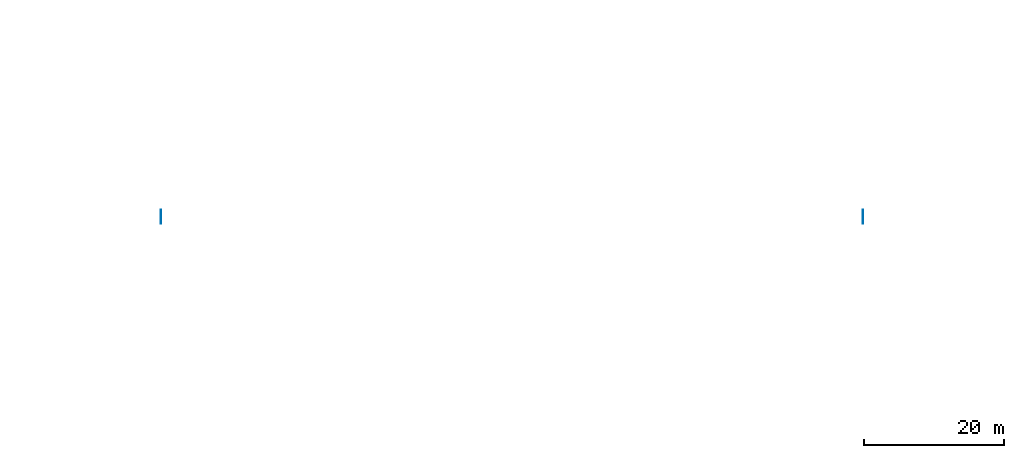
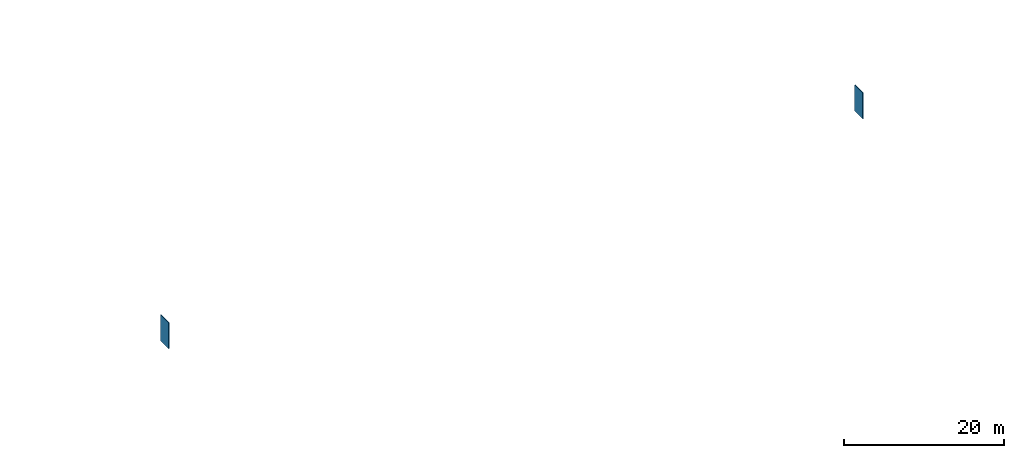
# One storey, part 139 of 164: 2 walls.
"""IFC2X3 building model written with IfcOpenShell, lengths in millimetres."""

from ifc_helpers import new_model, entity, si_unit, converted_unit, derived_unit, direction, frame, frame_2d, origin, place, context, subcontext, project, spatial, rectangle, extrude, material, layer, layer_set, layer_usage, type_object, element, save


model = new_model("IFC2X3")

# Units and contexts
model_context = context("Model", 3, precision=0.01, world=origin(), true_north=direction((6.12303176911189e-17, 1.0)))
body_context = subcontext(model_context, "Body", "Model", "MODEL_VIEW")
ifc_project = project(units=[si_unit("LENGTHUNIT", "METRE", prefix="MILLI"), si_unit("AREAUNIT", "SQUARE_METRE"), si_unit("VOLUMEUNIT", "CUBIC_METRE"), converted_unit("PLANEANGLEUNIT", "DEGREE", entity("IfcRatioMeasure", 0.0174532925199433), si_unit("PLANEANGLEUNIT", "RADIAN"), dimensions=[0, 0, 0, 0, 0, 0, 0]), si_unit("MASSUNIT", "GRAM", prefix="KILO"), derived_unit("MASSDENSITYUNIT", [(si_unit("MASSUNIT", "GRAM", prefix="KILO"), 1), (si_unit("LENGTHUNIT", "METRE"), -3)]), derived_unit("MOMENTOFINERTIAUNIT", [(si_unit("LENGTHUNIT", "METRE"), 4)]), si_unit("TIMEUNIT", "SECOND"), si_unit("FREQUENCYUNIT", "HERTZ"), si_unit("THERMODYNAMICTEMPERATUREUNIT", "DEGREE_CELSIUS"), derived_unit("THERMALTRANSMITTANCEUNIT", [(si_unit("MASSUNIT", "GRAM", prefix="KILO"), 1), (si_unit("THERMODYNAMICTEMPERATUREUNIT", "KELVIN"), -1), (si_unit("TIMEUNIT", "SECOND"), -3)]), derived_unit("VOLUMETRICFLOWRATEUNIT", [(si_unit("LENGTHUNIT", "METRE"), 3), (si_unit("TIMEUNIT", "SECOND"), -1)]), si_unit("ELECTRICCURRENTUNIT", "AMPERE"), si_unit("ELECTRICVOLTAGEUNIT", "VOLT"), si_unit("POWERUNIT", "WATT"), si_unit("FORCEUNIT", "NEWTON", prefix="KILO"), si_unit("ILLUMINANCEUNIT", "LUX"), si_unit("LUMINOUSFLUXUNIT", "LUMEN"), si_unit("LUMINOUSINTENSITYUNIT", "CANDELA"), derived_unit("USERDEFINED", [(si_unit("MASSUNIT", "GRAM", prefix="KILO"), -1), (si_unit("LENGTHUNIT", "METRE"), -2), (si_unit("TIMEUNIT", "SECOND"), 3), (si_unit("LUMINOUSFLUXUNIT", "LUMEN"), 1)]), derived_unit("LINEARVELOCITYUNIT", [(si_unit("LENGTHUNIT", "METRE"), 1), (si_unit("TIMEUNIT", "SECOND"), -1)]), si_unit("PRESSUREUNIT", "PASCAL"), derived_unit("USERDEFINED", [(si_unit("LENGTHUNIT", "METRE"), -2), (si_unit("MASSUNIT", "GRAM", prefix="KILO"), 1), (si_unit("TIMEUNIT", "SECOND"), -2)]), derived_unit("LINEARFORCEUNIT", [(si_unit("MASSUNIT", "GRAM", prefix="KILO"), 1), (si_unit("LENGTHUNIT", "METRE"), 1), (si_unit("TIMEUNIT", "SECOND"), -2), (si_unit("LENGTHUNIT", "METRE"), -1)]), derived_unit("PLANARFORCEUNIT", [(si_unit("MASSUNIT", "GRAM", prefix="KILO"), 1), (si_unit("LENGTHUNIT", "METRE"), 1), (si_unit("TIMEUNIT", "SECOND"), -2), (si_unit("LENGTHUNIT", "METRE"), -2)])], contexts=[model_context])

# Site, building, storey
site_placement = place(None, origin())
site = spatial("IfcSite", under=ifc_project, at=site_placement, Name="Default", CompositionType="ELEMENT")
building_placement = place(site_placement, origin())
building = spatial("IfcBuilding", under=site, at=building_placement, CompositionType="ELEMENT")
storey_placement = place(building_placement, origin())
storey = spatial("IfcBuildingStorey", under=building, at=storey_placement, Name="Level 1", CompositionType="ELEMENT", Elevation=0.0)

# Walls
ifc_material = material(Name="Default Wall")
ifc_layer = layer(ifc_material, 100.0)
ifc_layer_set = layer_set([ifc_layer], Name="Basic Wall:Generic - 100mm")
ifc_layer_usage_1 = layer_usage(ifc_layer_set, "AXIS2", "NEGATIVE", 50.0)
wall_type = type_object("IfcWallType", Name="Basic Wall:Generic - 100mm", PredefinedType="STANDARD", material=ifc_layer_set)
wall_1_placement = place(storey_placement, frame((1300050.0, 1201000.0, 0.0), z_axis=(0.0, 0.0, 1.0), x_axis=(0.0, -1.0, 0.0)))
element("IfcWallStandardCase", 1, at=wall_1_placement, inside=storey, type_object=wall_type, material=ifc_layer_usage_1, Name="Basic Wall:Generic - 100mm", ObjectType="Basic Wall:Generic - 100mm", context=body_context, shape_type="SweptSolid", body=[
    extrude(rectangle(XDim=2000.0000000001, YDim=100.000000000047, at=frame_2d((1000.00000000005, 1.60582658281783e-12), x_axis=(-1.0, 0.0))), origin(), (0.0, 0.0, 1.0), 4000.0),
])
ifc_layer_usage_2 = layer_usage(ifc_layer_set, "AXIS2", "NEGATIVE", 50.0)
wall_2_placement = place(storey_placement, frame((1400050.0, 1201000.0, 0.0), z_axis=(0.0, 0.0, 1.0), x_axis=(0.0, -1.0, 0.0)))
element("IfcWallStandardCase", 2, at=wall_2_placement, inside=storey, type_object=wall_type, material=ifc_layer_usage_2, Name="Basic Wall:Generic - 100mm", ObjectType="Basic Wall:Generic - 100mm", context=body_context, shape_type="SweptSolid", body=[
    extrude(rectangle(XDim=2000.0000000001, YDim=100.000000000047, at=frame_2d((1000.00000000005, 1.60582658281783e-12), x_axis=(-1.0, 0.0))), origin(), (0.0, 0.0, 1.0), 4000.0),
])

save(model, "model.ifc")
